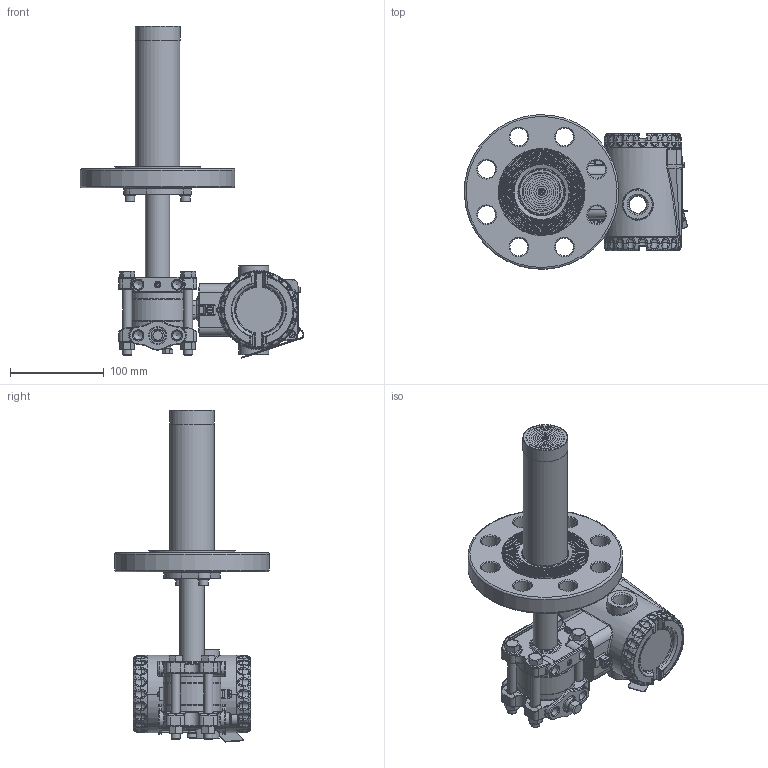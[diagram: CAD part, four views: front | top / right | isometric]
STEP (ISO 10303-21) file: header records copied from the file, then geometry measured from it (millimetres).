
FILE_DESCRIPTION(/* description */ (''),/* implementation_level */ '2;1');
FILE_NAME(/* name */ 'F:\Area\Desenvolvimento_2\Projects\Sensor\projetos\LD400-3d\dimensionais 3D clientes\LD400L\LD400L 2-300 RF ext 150 ref 1-4NPT purga acima.stp',/* time_stamp */ '2023-02-23T15:27:36-03:00',/* author */ ('inventor02'),/* organization */ (''),/* preprocessor_version */ 'ST-DEVELOPER v17',/* originating_system */ 'Autodesk Inventor 2019',/* authorisation */ '');
FILE_SCHEMA (('CONFIG_CONTROL_DESIGN'));
Products named in the file (41): LD30XL 2-300 RF ext 150 ref 1-4NPT purga acima; 204-0301-L-2 300 RF ext 150 purga acima; nivel fx3 com baixa diferencial 1-4NPT purga acima; involucro fx0-3 apos a usinagem final; flange diferencial std purga; 101-C-7484-01 flange selo nivel VR; 201-A-0504-tubo união teste 1; bujao 1-4NPT; Sangria; Porca 3-8 x 16 UNC; Paraf. 3-8 x 16 UNC; adaptação tubo x flanges 1-1-2 a 4pol; 101-B-0161-anel cortado do tubo - teste1; 101-B-0162-flange fixação tubo; ANSI B18.3.1M - M6x1 x 16; DIN 127 - A 6; flange 2 300 ext 150; 101-C-0117-10; 101-B-7700-01-150; 101-B-0168-11; Carcaça 400 com tampas e plaqueta sem letras; 101-D-0845-05 carcaça LD400 sem letras; 101-B-3614-03-tampa 400 sem letras; Tampa visor 400 montada sem letras; 101-B-3612-05 tampa visor 400 sem letras; 101-A-6107; oring 2034; 00034775-0; WHW_250; DIN 915 - M6 x 10; Chapa aterramento externo; 201-A-1771-02 inserto terra recartilhado; AS 1969 - ST4,2; ISO 1207 - M4 x 8; ANSI B18.3.1M - M4x0,7 x 8; Subconjunto plaqueta 400; plaqueta 400 em branco; Parafuso da Plaqueta; Rebite da Plaqueta; 096-A-0169-03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
Assembly tree (50 placements, depth 4):
  LD30XL 2-300 RF ext 150 ref 1-4NPT purga acima
    204-0301-L-2 300 RF ext 150 purga acima
      nivel fx3 com baixa diferencial 1-4NPT purga acima
        involucro fx0-3 apos a usinagem final
        flange diferencial std purga
        101-C-7484-01 flange selo nivel VR
        201-A-0504-tubo união teste 1
        DIN 915 - M6 x 10
        bujao 1-4NPT
        Sangria
        Porca 3-8 x 16 UNC  x4
        Paraf. 3-8 x 16 UNC  x4
      adaptação tubo x flanges 1-1-2 a 4pol
        101-B-0161-anel cortado do tubo - teste1
        101-B-0162-flange fixação tubo
        ANSI B18.3.1M - M6x1 x 16  x2
        DIN 127 - A 6  x2
      flange 2 300 ext 150
        101-C-0117-10
        101-B-7700-01-150
        101-B-0168-11
    Carcaça 400 com tampas e plaqueta sem letras
      101-D-0845-05 carcaça LD400 sem letras
      101-B-3614-03-tampa 400 sem letras
      Tampa visor 400 montada sem letras
        101-B-3612-05 tampa visor 400 sem letras
        101-A-6107
        oring 2034
        00034775-0
        WHW_250
      DIN 915 - M6 x 10
      Chapa aterramento externo
      201-A-1771-02 inserto terra recartilhado
      AS 1969 - ST4,2
      ISO 1207 - M4 x 8
      ANSI B18.3.1M - M4x0,7 x 8  x2
      Subconjunto plaqueta 400
        plaqueta 400 em branco
        Parafuso da Plaqueta
        Rebite da Plaqueta
        096-A-0169-03
        101-A-0502-01
Bounding box: 238.17 x 164.84 x 354.12 mm (x, y, z)
Volume: 1117812.2 mm3; surface area: 364392.9 mm2
Topology: 43 solids, 43 shells, 2791 faces, 6761 edges, 4060 vertices
Faces by surface type: plane 730, cylinder 668, bspline 604, torus 483, cone 230, sphere 76
Full cylindrical faces by diameter (mm): 2 x4, 2.1 x1, 2.2 x1, 2.459 x3, 2.5 x1, 2.7 x1, 2.8 x1, 3 x4, 3.242 x3, 3.5 x1, 3.571 x1, 4 x5, 4.3 x2, 4.4 x1, 4.917 x4, 5 x1, 5.5 x3, 6 x6, 6.1 x2, 6.2 x1, 6.647 x1, 7 x5, 7.6 x2, 7.798 x4, 8 x1, 9.525 x4, 9.728 x6, 10 x2, 10.5 x8, 10.719 x2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
Entity records: 99334 total; most frequent: CARTESIAN_POINT 37174, DIRECTION 12836, ORIENTED_EDGE 12762, EDGE_CURVE 6381, AXIS2_PLACEMENT_3D 5501, VERTEX_POINT 3866, CIRCLE 3197, EDGE_LOOP 2843
